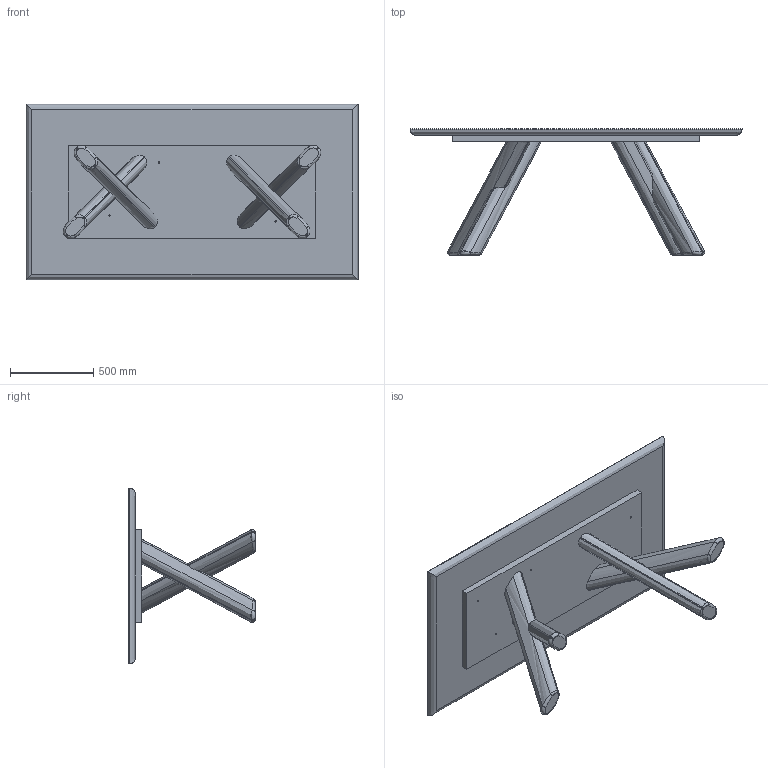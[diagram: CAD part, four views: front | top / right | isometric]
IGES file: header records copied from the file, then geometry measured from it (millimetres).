
Start section: SolidWorks IGES file using analytic representation for surfaces
Global section: file name: Y:\eforma\TECNICO\SOLIDWORKS\E-FORMA\1-TAVOLI\CANOVA\08 modelli 3D web\CN21W_CANOVA_top legno 200x106x76h.IGS; native system: SolidWorks 2022; preprocessor: SolidWorks 2022; author: eforma.tech; date: 250415.091308; units: millimetre
Bounding box: 2000 x 760 x 1060 mm (x, y, z)
Volume: 150354777.1 mm3; surface area: 7670497.7 mm2
Topology: 6 solids, 6 shells, 164 faces, 394 edges, 248 vertices
Faces by surface type: revolution 102, bspline 36, plane 26
